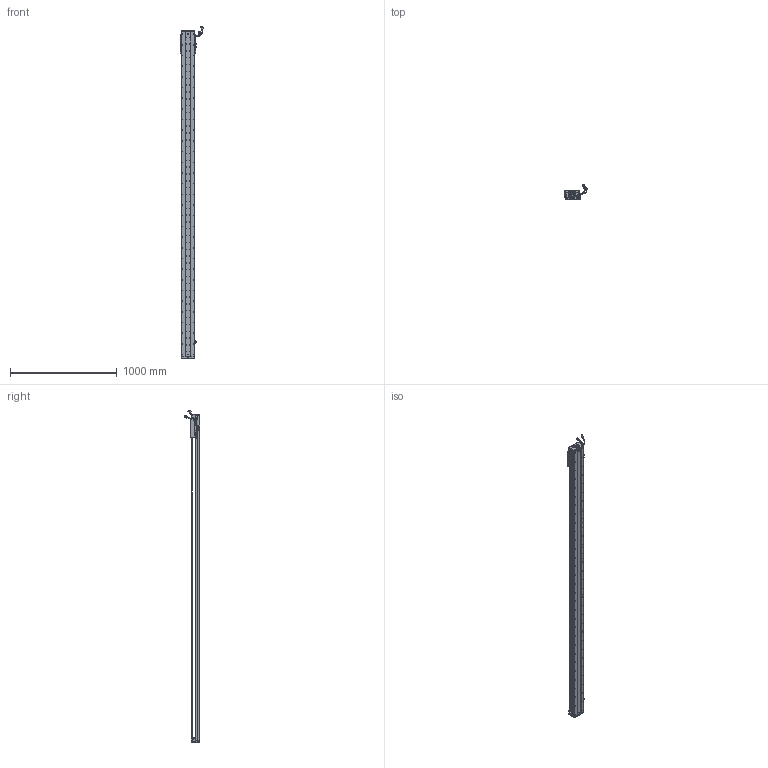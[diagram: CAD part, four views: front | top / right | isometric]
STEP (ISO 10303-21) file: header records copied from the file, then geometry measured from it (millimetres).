
FILE_DESCRIPTION (( 'STEP AP203' ), '1' );
FILE_NAME ('Z2-RY120D-1-L500-B-K.SLDASM_2800.step', '2021-05-17T05:40:20', ( '盈信电脑' ), ( '东莞市道滘镇水果街19号' ), 'SwSTEP 2.0', 'SolidWorks 2016', '' );
FILE_SCHEMA (( 'CONFIG_CONTROL_DESIGN' ));
Length unit declared in the file: millimetre
Products named in the file (37): 080黍杅芛假蚾釱21遴; PSLH080_PSLF2; SCREW-M1.7-1; SCREW-M1.6-1; SEAL; SHIELDPLATE; Z2-RY120铝滑块（21款）; HARNESS-Part-1; 140雄赽晤鎢ん堤盄; SCREW-M1.6; HARNESS-Part-2; LABEL; 120-Z-臏賑輸盄裔(21遴); Z2-RY120-500-倰第菁釱_2800; SCALE; SCREW-M1.6-3; SCREW-M1.7; SCALE-Part-1; 672嫖萇羲壽假蚾釱; Z2-RY120-L500詩湍100mm遵_2800; Z2-RY120D-1-L500-B-K.SLDASM_2800; SCREW-M1.6-2; COVER; SCALE-Part-2; SEAL-Part-1; PBU_SHEET; 榋妏寠巭燃_暯_M2_2; COVER-Part-1; LABEL-Part-1; HOLDER0; 覜茼ん672; Z-120詩湍傷裔啣; RY100FB-遵嫖萇覜茼え; Z-RY120D詩湍狟揤裔; HARNESS; 140蚥薯蝶輸; Z-RY120D詩湍奻揤裔
Assembly tree (43 placements, depth 4):
  Z2-RY120D-1-L500-B-K.SLDASM_2800
    Z2-RY120-500-倰第菁釱_2800
    覜茼ん672  x3
    672嫖萇羲壽假蚾釱  x2
    Z2-RY120铝滑块（21款）
    PSLH080_PSLF2
      SCALE
        SCALE-Part-1
        SCALE-Part-2
      HARNESS
        HARNESS-Part-1
        HARNESS-Part-2
      LABEL
        LABEL-Part-1
      COVER
        COVER-Part-1
      SEAL
        SEAL-Part-1
      榋妏寠巭燃_暯_M2_2
      SHIELDPLATE
      SCREW-M1.7
      SCREW-M1.7-1
      PBU_SHEET
      SCREW-M1.6
      SCREW-M1.6-1
      SCREW-M1.6-2
      SCREW-M1.6-3
      HOLDER0
    080黍杅芛假蚾釱21遴
    120-Z-臏賑輸盄裔(21遴)
    140雄赽晤鎢ん堤盄
    140蚥薯蝶輸  x2
    RY100FB-遵嫖萇覜茼え
    Z-120詩湍傷裔啣  x2
    Z-RY120D詩湍奻揤裔  x2
    Z-RY120D詩湍狟揤裔  x2
    Z2-RY120-L500詩湍100mm遵_2800
Bounding box: 222.83 x 140.94 x 3108.99 mm (x, y, z)
Volume: 6992956.2 mm3; surface area: 2487417.9 mm2
Topology: 38 solids, 38 shells, 3933 faces, 11330 edges, 7153 vertices
Faces by surface type: cylinder 2118, plane 1287, cone 406, torus 69, bspline 53
Entity records: 135180 total; most frequent: CARTESIAN_POINT 42550, ORIENTED_EDGE 19376, DIRECTION 17476, EDGE_CURVE 9688, AXIS2_PLACEMENT_3D 6470, VERTEX_POINT 6273, LINE 4536, VECTOR 4536
